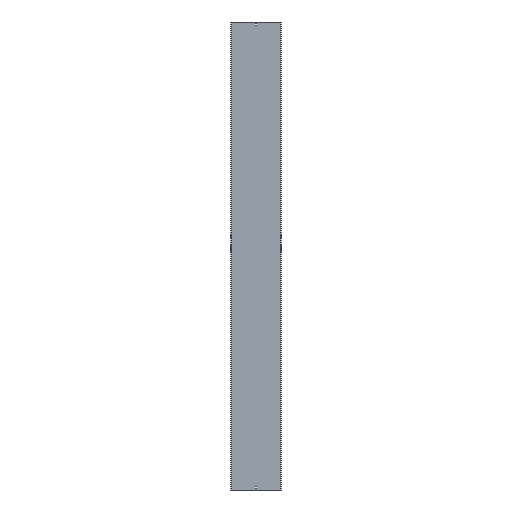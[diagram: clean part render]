
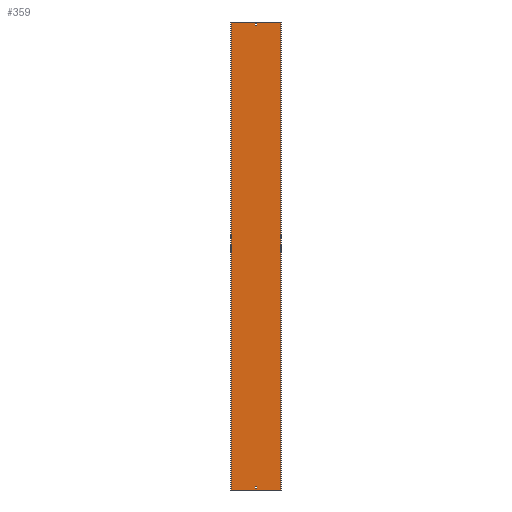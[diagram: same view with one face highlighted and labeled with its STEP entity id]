
A CAD part, front view. The second image highlights one B-rep face of the part: STEP entity #359.
In plain terms, the highlighted planar face has unit normal (0, -1, 0).
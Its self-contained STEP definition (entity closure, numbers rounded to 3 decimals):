
#2 = LINE ( 'NONE', #51, #320 ) ;
#16 = FACE_OUTER_BOUND ( 'NONE', #500, .T. ) ;
#20 = DIRECTION ( 'NONE',  ( -1., 0., 0. ) ) ;
#24 = DIRECTION ( 'NONE',  ( 0., 0., -1. ) ) ;
#31 = DIRECTION ( 'NONE',  ( 0., 0., -1. ) ) ;
#34 = LINE ( 'NONE', #580, #180 ) ;
#40 = AXIS2_PLACEMENT_3D ( 'NONE', #203, #167, #24 ) ;
#45 = CARTESIAN_POINT ( 'NONE',  ( -3.25, -1.5, -1488. ) ) ;
#48 = CARTESIAN_POINT ( 'NONE',  ( 3.25, -1.5, 1500. ) ) ;
#51 = CARTESIAN_POINT ( 'NONE',  ( -160., -1.5, 1500. ) ) ;
#55 = EDGE_CURVE ( 'NONE', #225, #507, #556, .T. ) ;
#68 = VECTOR ( 'NONE', #473, 1000. ) ;
#71 = LINE ( 'NONE', #298, #338 ) ;
#75 = ORIENTED_EDGE ( 'NONE', *, *, #548, .F. ) ;
#76 = EDGE_CURVE ( 'NONE', #290, #395, #518, .T. ) ;
#80 = LINE ( 'NONE', #316, #270 ) ;
#107 = VERTEX_POINT ( 'NONE', #449 ) ;
#111 = VERTEX_POINT ( 'NONE', #214 ) ;
#120 = CARTESIAN_POINT ( 'NONE',  ( 3.25, -1.5, 1488. ) ) ;
#122 = CARTESIAN_POINT ( 'NONE',  ( -3.25, -1.5, 1488. ) ) ;
#127 = DIRECTION ( 'NONE',  ( 0., 0., -1. ) ) ;
#134 = LINE ( 'NONE', #535, #377 ) ;
#136 = ORIENTED_EDGE ( 'NONE', *, *, #335, .F. ) ;
#153 = VERTEX_POINT ( 'NONE', #122 ) ;
#160 = CARTESIAN_POINT ( 'NONE',  ( -161.5, -1.5, 1500. ) ) ;
#167 = DIRECTION ( 'NONE',  ( 0., -1., 0. ) ) ;
#176 = EDGE_CURVE ( 'NONE', #153, #290, #351, .T. ) ;
#180 = VECTOR ( 'NONE', #31, 1000. ) ;
#188 = ORIENTED_EDGE ( 'NONE', *, *, #589, .T. ) ;
#202 = CARTESIAN_POINT ( 'NONE',  ( -161.5, -1.5, 1479. ) ) ;
#203 = CARTESIAN_POINT ( 'NONE',  ( -161.5, -1.5, 1500. ) ) ;
#206 = FACE_BOUND ( 'NONE', #536, .T. ) ;
#209 = ORIENTED_EDGE ( 'NONE', *, *, #176, .F. ) ;
#214 = CARTESIAN_POINT ( 'NONE',  ( 160., -1.5, 1500. ) ) ;
#216 = ORIENTED_EDGE ( 'NONE', *, *, #441, .F. ) ;
#220 = ORIENTED_EDGE ( 'NONE', *, *, #76, .F. ) ;
#225 = VERTEX_POINT ( 'NONE', #233 ) ;
#232 = DIRECTION ( 'NONE',  ( 0., 0., 1. ) ) ;
#233 = CARTESIAN_POINT ( 'NONE',  ( -3.25, -1.5, -1479. ) ) ;
#242 = CARTESIAN_POINT ( 'NONE',  ( -160., -1.5, 1500. ) ) ;
#257 = DIRECTION ( 'NONE',  ( -1., 0., 0. ) ) ;
#270 = VECTOR ( 'NONE', #127, 1000. ) ;
#271 = VERTEX_POINT ( 'NONE', #242 ) ;
#275 = DIRECTION ( 'NONE',  ( 0., 0., -1. ) ) ;
#290 = VERTEX_POINT ( 'NONE', #470 ) ;
#292 = CARTESIAN_POINT ( 'NONE',  ( -161.5, -1.5, 1488. ) ) ;
#297 = DIRECTION ( 'NONE',  ( 1., 0., 0. ) ) ;
#298 = CARTESIAN_POINT ( 'NONE',  ( -161.5, -1.5, -1488. ) ) ;
#306 = CARTESIAN_POINT ( 'NONE',  ( 3.25, -1.5, -1479. ) ) ;
#307 = ORIENTED_EDGE ( 'NONE', *, *, #374, .F. ) ;
#311 = VECTOR ( 'NONE', #569, 1000. ) ;
#313 = ORIENTED_EDGE ( 'NONE', *, *, #356, .T. ) ;
#316 = CARTESIAN_POINT ( 'NONE',  ( 3.25, -1.5, 1500. ) ) ;
#320 = VECTOR ( 'NONE', #275, 1000. ) ;
#323 = VERTEX_POINT ( 'NONE', #409 ) ;
#330 = VERTEX_POINT ( 'NONE', #120 ) ;
#335 = EDGE_CURVE ( 'NONE', #107, #533, #429, .T. ) ;
#338 = VECTOR ( 'NONE', #257, 1000. ) ;
#343 = DIRECTION ( 'NONE',  ( -1., 0., 0. ) ) ;
#347 = ORIENTED_EDGE ( 'NONE', *, *, #397, .T. ) ;
#351 = LINE ( 'NONE', #490, #311 ) ;
#356 = EDGE_CURVE ( 'NONE', #111, #271, #564, .T. ) ;
#358 = VECTOR ( 'NONE', #20, 1000. ) ;
#359 = ADVANCED_FACE ( 'NONE', ( #206, #16, #521 ), #571, .T. ) ;
#374 = EDGE_CURVE ( 'NONE', #330, #153, #526, .T. ) ;
#377 = VECTOR ( 'NONE', #399, 1000. ) ;
#383 = CARTESIAN_POINT ( 'NONE',  ( 3.25, -1.5, 1479. ) ) ;
#386 = VECTOR ( 'NONE', #343, 1000. ) ;
#395 = VERTEX_POINT ( 'NONE', #383 ) ;
#397 = EDGE_CURVE ( 'NONE', #323, #547, #71, .T. ) ;
#399 = DIRECTION ( 'NONE',  ( 0., 0., 1. ) ) ;
#400 = ORIENTED_EDGE ( 'NONE', *, *, #432, .T. ) ;
#409 = CARTESIAN_POINT ( 'NONE',  ( 3.25, -1.5, -1488. ) ) ;
#428 = CARTESIAN_POINT ( 'NONE',  ( -161.5, -1.5, -1479. ) ) ;
#429 = LINE ( 'NONE', #431, #358 ) ;
#431 = CARTESIAN_POINT ( 'NONE',  ( -161.5, -1.5, -1500. ) ) ;
#432 = EDGE_CURVE ( 'NONE', #507, #323, #80, .T. ) ;
#441 = EDGE_CURVE ( 'NONE', #111, #107, #34, .T. ) ;
#449 = CARTESIAN_POINT ( 'NONE',  ( 160., -1.5, -1500. ) ) ;
#454 = VECTOR ( 'NONE', #520, 1000. ) ;
#460 = ORIENTED_EDGE ( 'NONE', *, *, #465, .T. ) ;
#461 = LINE ( 'NONE', #48, #463 ) ;
#463 = VECTOR ( 'NONE', #232, 1000. ) ;
#465 = EDGE_CURVE ( 'NONE', #547, #225, #134, .T. ) ;
#470 = CARTESIAN_POINT ( 'NONE',  ( -3.25, -1.5, 1479. ) ) ;
#473 = DIRECTION ( 'NONE',  ( -1., 0., 0. ) ) ;
#490 = CARTESIAN_POINT ( 'NONE',  ( -3.25, -1.5, 1500. ) ) ;
#500 = EDGE_LOOP ( 'NONE', ( #136, #216, #313, #188 ) ) ;
#507 = VERTEX_POINT ( 'NONE', #306 ) ;
#508 = CARTESIAN_POINT ( 'NONE',  ( -160., -1.5, -1500. ) ) ;
#511 = VECTOR ( 'NONE', #297, 1000. ) ;
#518 = LINE ( 'NONE', #202, #511 ) ;
#520 = DIRECTION ( 'NONE',  ( 1., 0., 0. ) ) ;
#521 = FACE_BOUND ( 'NONE', #579, .T. ) ;
#526 = LINE ( 'NONE', #292, #68 ) ;
#533 = VERTEX_POINT ( 'NONE', #508 ) ;
#535 = CARTESIAN_POINT ( 'NONE',  ( -3.25, -1.5, 1500. ) ) ;
#536 = EDGE_LOOP ( 'NONE', ( #209, #307, #75, #220 ) ) ;
#547 = VERTEX_POINT ( 'NONE', #45 ) ;
#548 = EDGE_CURVE ( 'NONE', #395, #330, #461, .T. ) ;
#556 = LINE ( 'NONE', #428, #454 ) ;
#564 = LINE ( 'NONE', #160, #386 ) ;
#569 = DIRECTION ( 'NONE',  ( 0., 0., -1. ) ) ;
#571 = PLANE ( 'NONE',  #40 ) ;
#577 = ORIENTED_EDGE ( 'NONE', *, *, #55, .T. ) ;
#579 = EDGE_LOOP ( 'NONE', ( #347, #460, #577, #400 ) ) ;
#580 = CARTESIAN_POINT ( 'NONE',  ( 160., -1.5, 1500. ) ) ;
#589 = EDGE_CURVE ( 'NONE', #271, #533, #2, .T. ) ;
